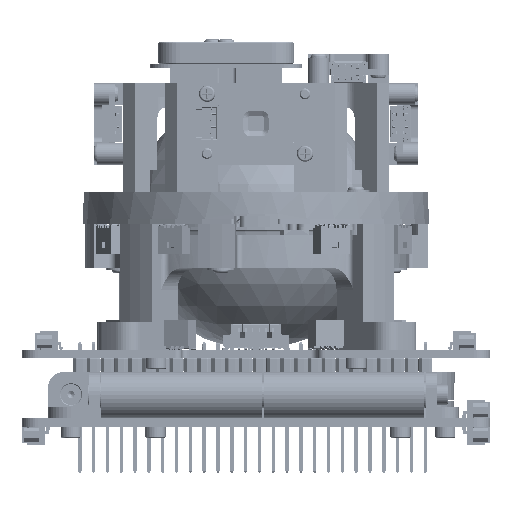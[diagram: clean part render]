
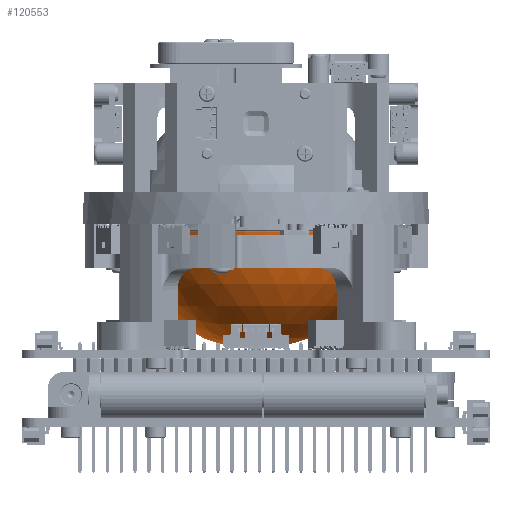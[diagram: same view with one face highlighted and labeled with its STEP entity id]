
A CAD part, front view. The second image highlights one B-rep face of the part: STEP entity #120553.
In plain terms, the highlighted spherical face has radius 23.5 mm.
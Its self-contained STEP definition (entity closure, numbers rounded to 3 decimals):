
#35=SPHERICAL_SURFACE('',#129126,23.5);
#11447=FACE_OUTER_BOUND('',#18512,.T.);
#18512=EDGE_LOOP('',(#92813,#92814,#92815,#92816,#92817,#92818));
#51185=CIRCLE('',#128966,5.);
#51186=CIRCLE('',#128967,5.);
#51290=CIRCLE('',#129124,23.418);
#51291=CIRCLE('',#129125,23.418);
#51292=CIRCLE('',#129127,23.5);
#57031=VERTEX_POINT('',#180751);
#57032=VERTEX_POINT('',#180753);
#57132=VERTEX_POINT('',#181058);
#57133=VERTEX_POINT('',#181060);
#69971=EDGE_CURVE('',#57032,#57031,#51185,.T.);
#69972=EDGE_CURVE('',#57031,#57032,#51186,.T.);
#70124=EDGE_CURVE('',#57132,#57133,#51290,.T.);
#70125=EDGE_CURVE('',#57133,#57132,#51291,.T.);
#70126=EDGE_CURVE('',#57032,#57133,#51292,.T.);
#92813=ORIENTED_EDGE('',*,*,#69972,.T.);
#92814=ORIENTED_EDGE('',*,*,#70126,.T.);
#92815=ORIENTED_EDGE('',*,*,#70124,.F.);
#92816=ORIENTED_EDGE('',*,*,#70125,.F.);
#92817=ORIENTED_EDGE('',*,*,#70126,.F.);
#92818=ORIENTED_EDGE('',*,*,#69971,.T.);
#120553=ADVANCED_FACE('',(#11447),#35,.T.);
#128966=AXIS2_PLACEMENT_3D('',#180754,#145903,#145904);
#128967=AXIS2_PLACEMENT_3D('',#180755,#145905,#145906);
#129124=AXIS2_PLACEMENT_3D('',#181061,#146267,#146268);
#129125=AXIS2_PLACEMENT_3D('',#181062,#146269,#146270);
#129126=AXIS2_PLACEMENT_3D('',#181063,#146271,#146272);
#129127=AXIS2_PLACEMENT_3D('',#181064,#146273,#146274);
#145903=DIRECTION('center_axis',(0.,-1.,0.));
#145904=DIRECTION('ref_axis',(-1.,0.,0.));
#145905=DIRECTION('center_axis',(0.,-1.,0.));
#145906=DIRECTION('ref_axis',(-1.,0.,0.));
#146267=DIRECTION('center_axis',(0.,-1.,0.));
#146268=DIRECTION('ref_axis',(0.,0.,-1.));
#146269=DIRECTION('center_axis',(0.,-1.,0.));
#146270=DIRECTION('ref_axis',(0.,0.,-1.));
#146271=DIRECTION('center_axis',(0.,1.,0.));
#146272=DIRECTION('ref_axis',(0.,0.,-1.));
#146273=DIRECTION('center_axis',(1.,0.,0.));
#146274=DIRECTION('ref_axis',(0.,0.,1.));
#180751=CARTESIAN_POINT('',(5.,22.962,0.));
#180753=CARTESIAN_POINT('',(0.,22.962,5.));
#180754=CARTESIAN_POINT('Origin',(0.,22.962,0.));
#180755=CARTESIAN_POINT('Origin',(0.,22.962,0.));
#181058=CARTESIAN_POINT('',(0.,1.958,-23.418));
#181060=CARTESIAN_POINT('',(0.,1.958,23.418));
#181061=CARTESIAN_POINT('Origin',(0.,1.958,0.));
#181062=CARTESIAN_POINT('Origin',(0.,1.958,0.));
#181063=CARTESIAN_POINT('Origin',(0.,0.,0.));
#181064=CARTESIAN_POINT('Origin',(0.,0.,0.));
